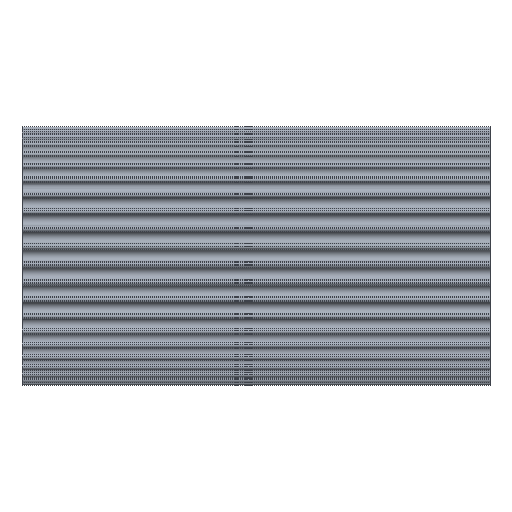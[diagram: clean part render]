
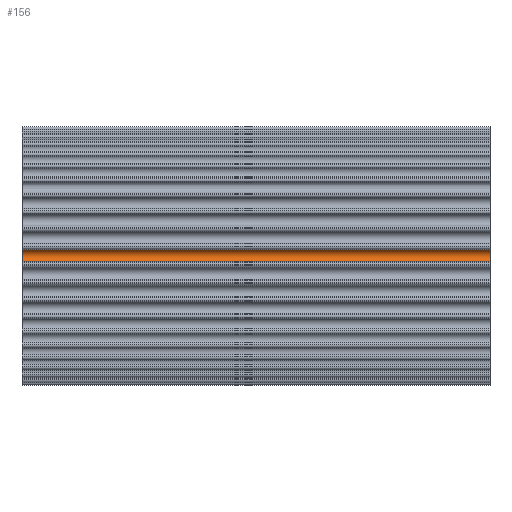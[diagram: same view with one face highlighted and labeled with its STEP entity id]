
A CAD part, top view. The second image highlights one B-rep face of the part: STEP entity #156.
In plain terms, the highlighted cylindrical face has radius 2.629 mm (diameter 5.258 mm), a partial arc.
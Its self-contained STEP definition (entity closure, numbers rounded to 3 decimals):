
#156 = ADVANCED_FACE( '', ( #504 ), #505, .F. );
#504 = FACE_OUTER_BOUND( '', #1036, .T. );
#505 = CYLINDRICAL_SURFACE( '', #1037, 2.629 );
#1036 = EDGE_LOOP( '', ( #2493, #2494, #2495, #2496 ) );
#1037 = AXIS2_PLACEMENT_3D( '', #2497, #2498, #2499 );
#2493 = ORIENTED_EDGE( '', *, *, #4127, .T. );
#2494 = ORIENTED_EDGE( '', *, *, #4405, .F. );
#2495 = ORIENTED_EDGE( '', *, *, #3994, .F. );
#2496 = ORIENTED_EDGE( '', *, *, #4404, .T. );
#2497 = CARTESIAN_POINT( '', ( 0., 0., 54.36 ) );
#2498 = DIRECTION( '', ( -1., 0., 0. ) );
#2499 = DIRECTION( '', ( 0., 1., 0. ) );
#3994 = EDGE_CURVE( '', #4988, #4990, #4991, .T. );
#4127 = EDGE_CURVE( '', #5250, #5248, #5251, .T. );
#4404 = EDGE_CURVE( '', #4988, #5250, #5724, .T. );
#4405 = EDGE_CURVE( '', #4990, #5248, #5725, .T. );
#4988 = VERTEX_POINT( '', #6379 );
#4990 = VERTEX_POINT( '', #6382 );
#4991 = CIRCLE( '', #6383, 2.629 );
#5248 = VERTEX_POINT( '', #6687 );
#5250 = VERTEX_POINT( '', #6690 );
#5251 = CIRCLE( '', #6691, 2.629 );
#5724 = LINE( '', #7308, #7309 );
#5725 = LINE( '', #7310, #7311 );
#6379 = CARTESIAN_POINT( '', ( 0., -2.554, 53.736 ) );
#6382 = CARTESIAN_POINT( '', ( 0., 2.554, 53.736 ) );
#6383 = AXIS2_PLACEMENT_3D( '', #8134, #8135, #8136 );
#6687 = CARTESIAN_POINT( '', ( 200., 2.554, 53.736 ) );
#6690 = CARTESIAN_POINT( '', ( 200., -2.554, 53.736 ) );
#6691 = AXIS2_PLACEMENT_3D( '', #8437, #8438, #8439 );
#7308 = CARTESIAN_POINT( '', ( 0., -2.554, 53.736 ) );
#7309 = VECTOR( '', #8980, 1000. );
#7310 = CARTESIAN_POINT( '', ( 0., 2.554, 53.736 ) );
#7311 = VECTOR( '', #8981, 1000. );
#8134 = CARTESIAN_POINT( '', ( 0., 0., 54.36 ) );
#8135 = DIRECTION( '', ( 1., 0., 0. ) );
#8136 = DIRECTION( '', ( 0., 1., 0. ) );
#8437 = CARTESIAN_POINT( '', ( 200., 0., 54.36 ) );
#8438 = DIRECTION( '', ( 1., 0., 0. ) );
#8439 = DIRECTION( '', ( 0., 1., 0. ) );
#8980 = DIRECTION( '', ( 1., 0., 0. ) );
#8981 = DIRECTION( '', ( 1., 0., 0. ) );
